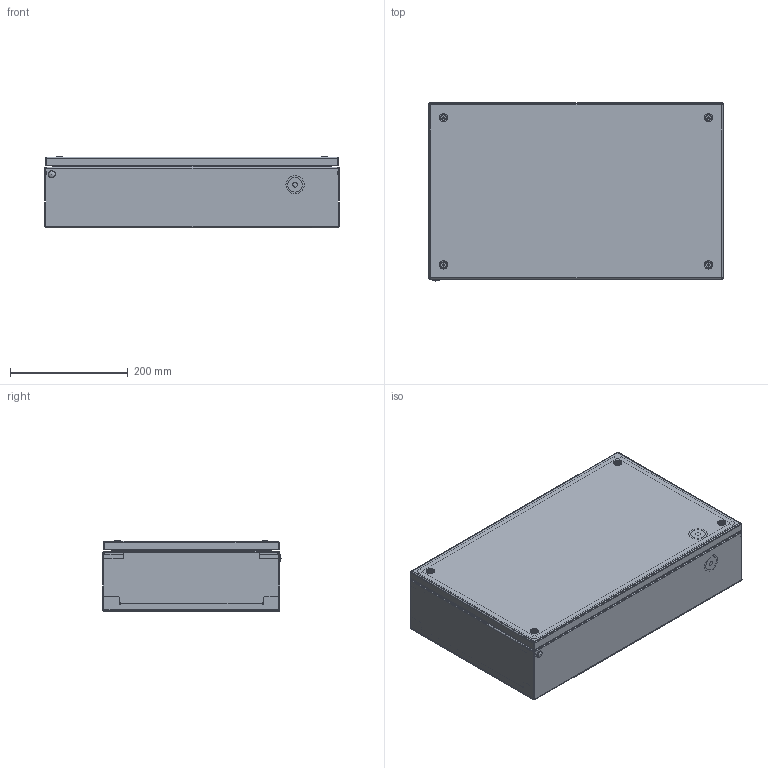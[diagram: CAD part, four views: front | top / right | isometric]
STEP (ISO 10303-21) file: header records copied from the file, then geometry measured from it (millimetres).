
FILE_DESCRIPTION (( 'STEP AP203' ), '1' );
FILE_NAME ('BCS 30.50.12-L Êîðîáêà êëåììíàÿ.STEP', '2025-05-06T09:33:13', ( '' ), ( '' ), 'SwSTEP 2.0', 'SolidWorks 2019', '' );
FILE_SCHEMA (( 'CONFIG_CONTROL_DESIGN' ));
Length unit declared in the file: millimetre
Products named in the file (14): 妈眚 襦祛磬疱玎栝_4,8x11; Essentra_d9.3_055009300003; BCS X.Y.12.01.001 暑痫篑_BCS 30.50.12.01.001 姰喁汜; BCS X.002 ﾊ煇鳫_BCS 30.002 癌ｮｭ鞣･ｩｭ; BCS 30.50.12-L Êîðîáêà êëåììíàÿ; Ãàéêà çàêëàäíàÿ êâàäðàòíàÿ îö. Ì5_ƒ ©ª  § ª« ¤­ ï ª¢ ¤à â­ ï ®æ. Œ5 1,7-2,7; B裇 Y.004-L 鱼铍铌_B慡 50.004-L; Øïèëüêà çàçåìëåíèÿ Ì6õ17,5_v.2_˜¯¨«ìª  § §¥¬«¥­¨ï Œ6å17,5 á ª®«¯ çª®¬; 妈眚 礤恹镟溧栝 镱蜞轫铋 梦岩 10339-80_M5x32; BÑS X.Y.02.001-L Êðûøêà êëåììíàÿ_B‘S 30.50.02.001-L; ﾘ琺矜 5 ﾃﾎﾑﾒ 11371-78_Washer DIN 126 - 5.5; BÑS X.Y.02.000-L ÑÁ Êðûøêà êëåììíàÿ_B‘S 30.50.02.000-L; MPB X.Y.001 Ìîíòàæíàÿ ïàíåëü_MPB 30.50.001 Œ®­â ¦­ ï ¯ ­¥«ì; B裇 X.Y.Z.01.000-L 蚜 暑痫篑 觌屐祉 疋囵眍開BCS 30.50.12.01.000-L
Assembly tree (28 placements, depth 3):
  BCS 30.50.12-L Êîðîáêà êëåììíàÿ
    B裇 X.Y.Z.01.000-L 蚜 暑痫篑 觌屐祉 疋囵眍開BCS 30.50.12.01.000-L
      BCS X.Y.12.01.001 暑痫篑_BCS 30.50.12.01.001 姰喁汜
      BCS X.002 ﾊ煇鳫_BCS 30.002 癌ｮｭ鞣･ｩｭ  x2
      Øïèëüêà çàçåìëåíèÿ Ì6õ17,5_v.2_˜¯¨«ìª  § §¥¬«¥­¨ï Œ6å17,5 á ª®«¯ çª®¬
      B裇 Y.004-L 鱼铍铌_B慡 50.004-L  x2
    BÑS X.Y.02.000-L ÑÁ Êðûøêà êëåììíàÿ_B‘S 30.50.02.000-L
      BÑS X.Y.02.001-L Êðûøêà êëåììíàÿ_B‘S 30.50.02.001-L
      Øïèëüêà çàçåìëåíèÿ Ì6õ17,5_v.2_˜¯¨«ìª  § §¥¬«¥­¨ï Œ6å17,5 á ª®«¯ çª®¬
    MPB X.Y.001 Ìîíòàæíàÿ ïàíåëü_MPB 30.50.001 Œ®­â ¦­ ï ¯ ­¥«ì
    妈眚 襦祛磬疱玎栝_4,8x11  x4
    ﾘ琺矜 5 ﾃﾎﾑﾒ 11371-78_Washer DIN 126 - 5.5  x4
    妈眚 礤恹镟溧栝 镱蜞轫铋 梦岩 10339-80_M5x32  x4
    Ãàéêà çàêëàäíàÿ êâàäðàòíàÿ îö. Ì5_ƒ ©ª  § ª« ¤­ ï ª¢ ¤à â­ ï ®æ. Œ5 1,7-2,7  x4
    Essentra_d9.3_055009300003
Bounding box: 500 x 302.5 x 121.5 mm (x, y, z)
Volume: 980229.4 mm3; surface area: 1434348.3 mm2
Topology: 33 solids, 33 shells, 1729 faces, 4199 edges, 2551 vertices
Faces by surface type: plane 912, cylinder 584, bspline 94, cone 94, torus 44, sphere 1
Entity records: 31293 total; most frequent: CARTESIAN_POINT 9770, ORIENTED_EDGE 4170, DIRECTION 4004, EDGE_CURVE 2085, AXIS2_PLACEMENT_3D 1408, VERTEX_POINT 1273, LINE 1188, VECTOR 1188
